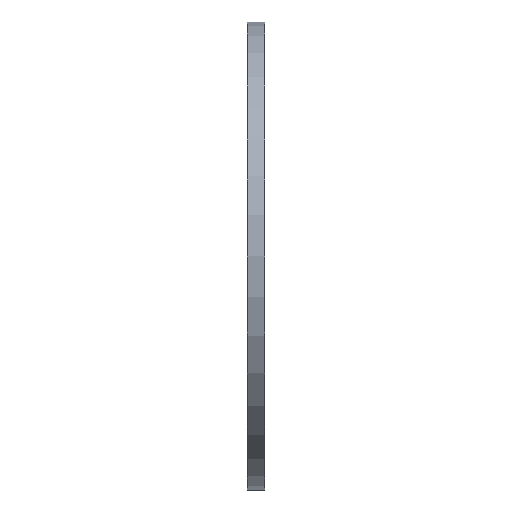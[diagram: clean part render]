
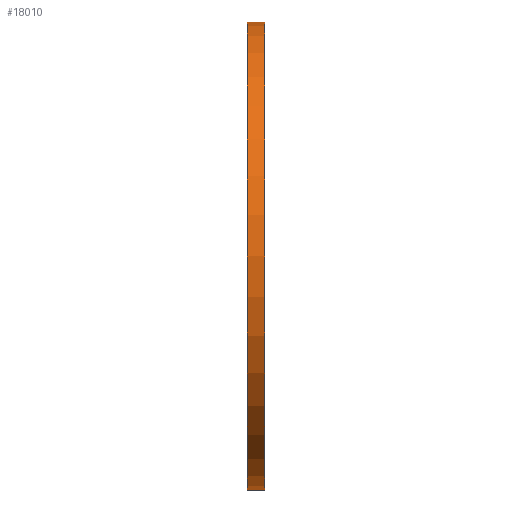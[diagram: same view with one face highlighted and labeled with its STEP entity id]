
A CAD part, left-side view. The second image highlights one B-rep face of the part: STEP entity #18010.
In plain terms, the highlighted cylindrical face has radius 162.75 mm (diameter 325.5 mm), a partial arc.
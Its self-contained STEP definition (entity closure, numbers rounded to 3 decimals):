
#186 = DIRECTION ( 'NONE',  ( 0., -1., 0. ) ) ;
#676 = DIRECTION ( 'NONE',  ( 0., -1., 0. ) ) ;
#2559 = CARTESIAN_POINT ( 'NONE',  ( 0., 0., 0. ) ) ;
#3747 = DIRECTION ( 'NONE',  ( 0., -1., 0. ) ) ;
#3913 = ORIENTED_EDGE ( 'NONE', *, *, #14984, .F. ) ;
#4513 = CARTESIAN_POINT ( 'NONE',  ( 0., 0., 162.75 ) ) ;
#8006 = CARTESIAN_POINT ( 'NONE',  ( 0., 12., 0. ) ) ;
#9823 = DIRECTION ( 'NONE',  ( 0., 0., -1. ) ) ;
#9975 = VERTEX_POINT ( 'NONE', #10585 ) ;
#10057 = DIRECTION ( 'NONE',  ( 0., 0., -1. ) ) ;
#10473 = DIRECTION ( 'NONE',  ( 0., 0., -1. ) ) ;
#10585 = CARTESIAN_POINT ( 'NONE',  ( 0., 0., -162.75 ) ) ;
#11822 = ORIENTED_EDGE ( 'NONE', *, *, #16029, .F. ) ;
#12348 = FACE_OUTER_BOUND ( 'NONE', #22360, .T. ) ;
#12834 = LINE ( 'NONE', #24991, #28844 ) ;
#12890 = CIRCLE ( 'NONE', #23474, 162.75 ) ;
#13293 = VERTEX_POINT ( 'NONE', #19109 ) ;
#13995 = VERTEX_POINT ( 'NONE', #4513 ) ;
#14984 = EDGE_CURVE ( 'NONE', #24052, #13995, #12834, .T. ) ;
#16029 = EDGE_CURVE ( 'NONE', #13995, #9975, #25389, .T. ) ;
#16849 = AXIS2_PLACEMENT_3D ( 'NONE', #2559, #186, #9823 ) ;
#18010 = ADVANCED_FACE ( 'NONE', ( #12348 ), #28623, .T. ) ;
#18427 = LINE ( 'NONE', #30895, #23543 ) ;
#19109 = CARTESIAN_POINT ( 'NONE',  ( 0., 12., -162.75 ) ) ;
#19719 = ORIENTED_EDGE ( 'NONE', *, *, #30777, .T. ) ;
#22360 = EDGE_LOOP ( 'NONE', ( #3913, #19719, #24312, #11822 ) ) ;
#22465 = DIRECTION ( 'NONE',  ( 0., -1., 0. ) ) ;
#23474 = AXIS2_PLACEMENT_3D ( 'NONE', #8006, #27121, #10057 ) ;
#23526 = CARTESIAN_POINT ( 'NONE',  ( 0., 12., 162.75 ) ) ;
#23543 = VECTOR ( 'NONE', #3747, 1000. ) ;
#24052 = VERTEX_POINT ( 'NONE', #23526 ) ;
#24312 = ORIENTED_EDGE ( 'NONE', *, *, #30168, .T. ) ;
#24865 = AXIS2_PLACEMENT_3D ( 'NONE', #27517, #22465, #10473 ) ;
#24991 = CARTESIAN_POINT ( 'NONE',  ( 0., 0., 162.75 ) ) ;
#25389 = CIRCLE ( 'NONE', #24865, 162.75 ) ;
#27121 = DIRECTION ( 'NONE',  ( 0., -1., 0. ) ) ;
#27517 = CARTESIAN_POINT ( 'NONE',  ( 0., 0., 0. ) ) ;
#28623 = CYLINDRICAL_SURFACE ( 'NONE', #16849, 162.75 ) ;
#28844 = VECTOR ( 'NONE', #676, 1000. ) ;
#30168 = EDGE_CURVE ( 'NONE', #13293, #9975, #18427, .T. ) ;
#30777 = EDGE_CURVE ( 'NONE', #24052, #13293, #12890, .T. ) ;
#30895 = CARTESIAN_POINT ( 'NONE',  ( 0., 0., -162.75 ) ) ;
